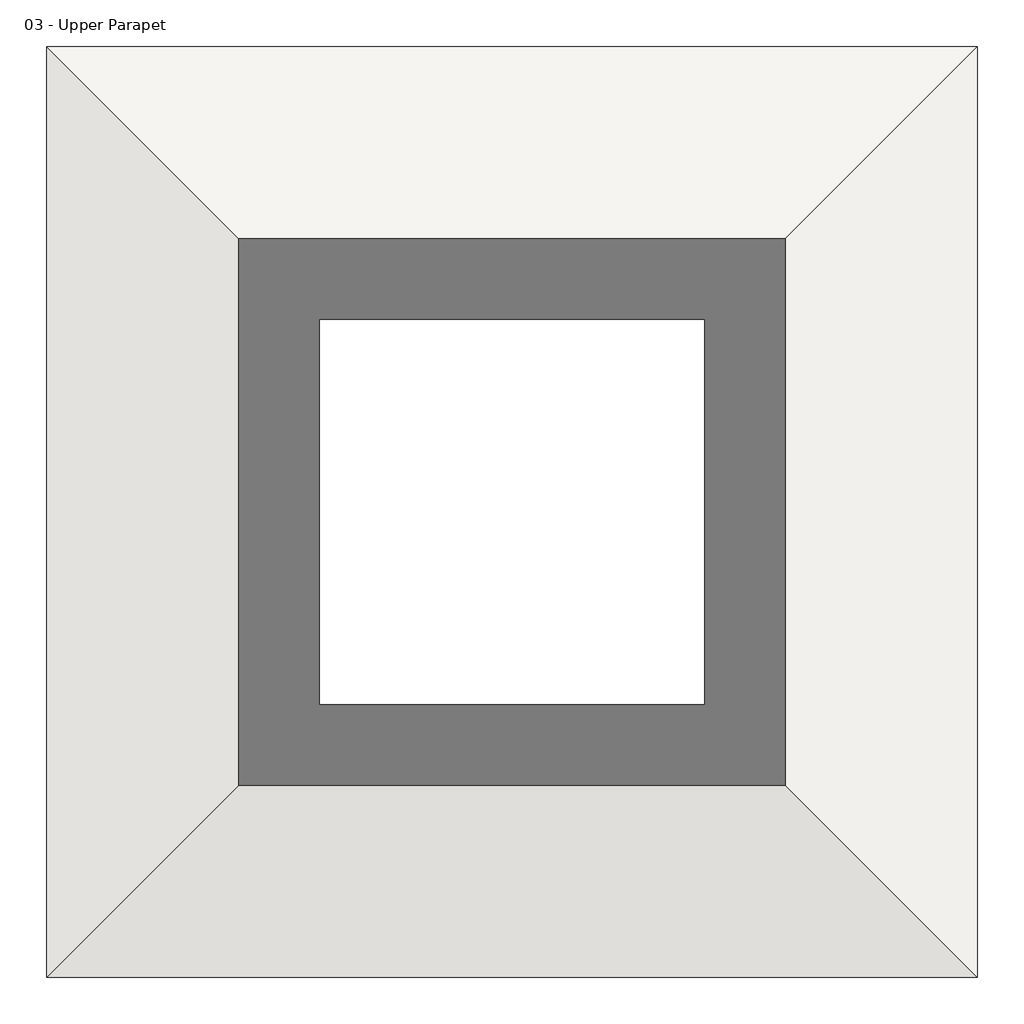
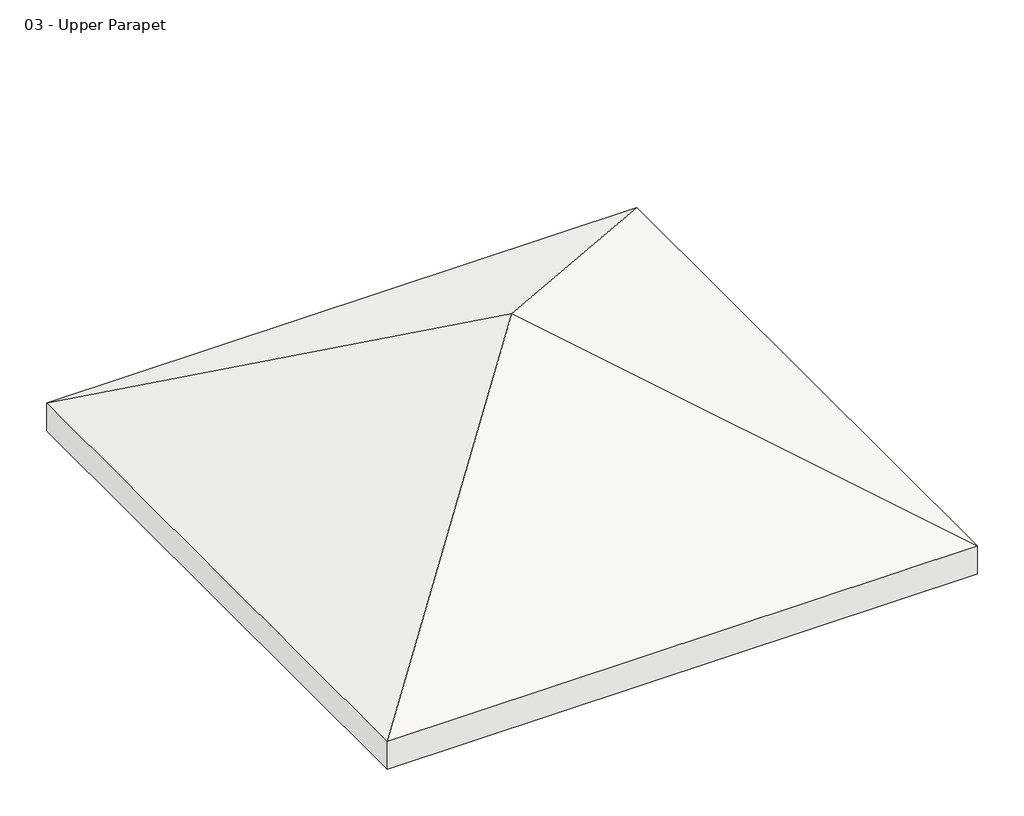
# One storey: 1 roof.
"""IFC4 building model written with IfcOpenShell, lengths in millimetres."""

import ifcopenshell
import ifcopenshell.guid

model = None  # the IFC model being written
_history = None  # IfcOwnerHistory: only IFC2X3 demands one
_inside = {}  # id of a spatial element -> (the spatial element, [elements in it])
_under = {}  # id of a project, library or spatial element -> (it, [spatial elements below it])
_declared = {}  # id of a project -> (the project, [libraries it declares])
_typed = {}  # id of a type object -> (the type object, [elements of that type])
_made_of = {}  # id of a material, layer set ... -> (it, [elements and type objects made of it])


def new_model(schema):
    """Start an empty IFC model of exactly this schema.

    Asked for "IFC4X3", IfcOpenShell would pick the latest addendum, in which some entities
    have other attributes; the version numbers below select the first issue.
    IFC2X3 requires an IfcOwnerHistory on every rooted entity: one is made here for all.
    """
    global model, _history
    if schema == "IFC4X3":
        model = ifcopenshell.file(schema_version=(4, 3, 0, 0))
    else:
        model = ifcopenshell.file(schema=schema)
    _inside.clear()
    _under.clear()
    _declared.clear()
    _typed.clear()
    _made_of.clear()
    _history = None
    if model.schema == "IFC2X3":
        org = make("IfcOrganization", Name="unknown")
        user = make(
            "IfcPersonAndOrganization",
            ThePerson=make("IfcPerson", FamilyName="unknown"),
            TheOrganization=org,
        )
        app = make(
            "IfcApplication",
            ApplicationDeveloper=org,
            Version="unknown",
            ApplicationFullName="unknown",
            ApplicationIdentifier="unknown",
        )
        _history = make(
            "IfcOwnerHistory",
            OwningUser=user,
            OwningApplication=app,
            ChangeAction="ADDED",
            CreationDate=0,
        )
    return model


def make(cls, **values):
    """One entity of the class cls with the attributes given. An attribute that is None is left unset."""
    return model.create_entity(
        cls, **{name: value for name, value in values.items() if value is not None}
    )


def rooted(cls, **values):
    """An entity with a GlobalId (a new one), such as an element, a storey or a relation."""
    return make(cls, GlobalId=ifcopenshell.guid.new(), OwnerHistory=_history, **values)


def si_unit(unit_type, name, prefix=None):
    """IfcSIUnit, for example si_unit("LENGTHUNIT", "METRE", prefix="MILLI")."""
    return make("IfcSIUnit", UnitType=unit_type, Prefix=prefix, Name=name)


def assignment(units):
    """IfcUnitAssignment: the units of a project."""
    return None if units is None else make("IfcUnitAssignment", Units=units)


def point(xyz):
    """IfcCartesianPoint."""
    return None if xyz is None else make("IfcCartesianPoint", Coordinates=xyz)


def direction(xyz):
    """IfcDirection."""
    return None if xyz is None else make("IfcDirection", DirectionRatios=xyz)


def frame(location, z_axis=None, x_axis=None):
    """IfcAxis2Placement3D, a coordinate frame: its origin and axes. An axis left out is left unset."""
    return make(
        "IfcAxis2Placement3D",
        Location=point(location),
        Axis=direction(z_axis),
        RefDirection=direction(x_axis),
    )


def origin():
    """The frame at (0, 0, 0) with its axes left unset."""
    return frame((0.0, 0.0, 0.0))


def place(relative_to, where):
    """IfcLocalPlacement: puts the frame where relative to a parent placement (None: the world)."""
    return make(
        "IfcLocalPlacement", PlacementRelTo=relative_to, RelativePlacement=where
    )


def context(
    kind, dimensions, precision=None, world=None, true_north=None, identifier=None
):
    """IfcGeometricRepresentationContext, for example the 3D "Model" context."""
    return make(
        "IfcGeometricRepresentationContext",
        ContextIdentifier=identifier,
        ContextType=kind,
        CoordinateSpaceDimension=dimensions,
        Precision=precision,
        WorldCoordinateSystem=world,
        TrueNorth=true_north,
    )


def project(units=None, contexts=None):
    """IfcProject with its units and contexts."""
    return rooted(
        "IfcProject",
        Name="project",
        RepresentationContexts=contexts,
        UnitsInContext=assignment(units),
    )


def spatial(cls, under=None, at=None, **own):
    """A site, building, storey or space (cls), placed at a placement, below another one or the project."""
    s = rooted(cls, ObjectPlacement=at, **own)
    if under is not None:
        _under.setdefault(under.id(), (under, []))[1].append(s)
    return s


def faces_of(points, faces, orient=None, outer=None):
    """IfcFace entities. A face is a list of loops; a loop is a list of indices into points, from 0.

    orient and outer hold one flag for each loop. By default every Orientation is true, the
    first loop of a face is its IfcFaceOuterBound and the others are IfcFaceBound.
    """
    made = []
    for i, loops in enumerate(faces):
        bounds = []
        for j, loop in enumerate(loops):
            is_outer = j == 0 if outer is None else outer[i][j]
            bounds.append(
                make(
                    "IfcFaceOuterBound" if is_outer else "IfcFaceBound",
                    Bound=make("IfcPolyLoop", Polygon=[points[k] for k in loop]),
                    Orientation=True if orient is None else orient[i][j],
                )
            )
        made.append(make("IfcFace", Bounds=bounds))
    return made


def faceted_brep(points, faces, orient=None, outer=None, voids=None):
    """IfcFacetedBrep: a solid bounded by flat faces; with voids (closed shells), ...WithVoids."""
    shared = [point(p) for p in points]
    hull = make("IfcClosedShell", CfsFaces=faces_of(shared, faces, orient, outer))
    if voids is None:
        return make("IfcFacetedBrep", Outer=hull)
    return make(
        "IfcFacetedBrepWithVoids",
        Outer=hull,
        Voids=[
            make(cls, CfsFaces=faces_of(shared, fs, o, b)) for cls, fs, o, b in voids
        ],
    )


def shape(context_of_items, identifier, shape_type, items):
    """IfcShapeRepresentation: the items that make up one representation, for example the "Body"."""
    return make(
        "IfcShapeRepresentation",
        ContextOfItems=context_of_items,
        RepresentationIdentifier=identifier,
        RepresentationType=shape_type,
        Items=items,
    )


def made_of(thing, what):
    """Note that an element or type object is made of a material, layer set ...; save() writes the relation."""
    if what is not None:
        _made_of.setdefault(what.id(), (what, []))[1].append(thing)
    return thing


def element(
    cls,
    number,
    at=None,
    inside=None,
    cuts=None,
    type_object=None,
    material=None,
    context=None,
    identifier="Body",
    shape_type=None,
    held_by="IfcProductDefinitionShape",
    body=None,
    shapes=None,
    **own,
):
    """One element of the class cls, such as IfcWall. Its Tag is "e" and its number.

    at: its placement. inside: the storey or other place that contains it. cuts: it is an
    opening in that element (IfcRelVoidsElement). A single representation is given by context,
    identifier, shape_type and body (its items); several are given by shapes. held_by: the class
    of the entity that holds the representations. save() writes the other relations.
    """
    e = rooted(cls, Tag="e%d" % number, ObjectPlacement=at, **own)
    if body is not None:
        shapes = [shape(context, identifier, shape_type, body)]
    if shapes is not None:
        e.Representation = make(held_by, Representations=shapes)
    if inside is not None:
        _inside.setdefault(inside.id(), (inside, []))[1].append(e)
    if cuts is not None:
        rooted(
            "IfcRelVoidsElement", RelatingBuildingElement=cuts, RelatedOpeningElement=e
        )
    if type_object is not None:
        _typed.setdefault(type_object.id(), (type_object, []))[1].append(e)
    return made_of(e, material)


def aggregate(whole, parts):
    """IfcRelAggregates: a whole, such as a stair, and the parts it consists of."""
    return rooted("IfcRelAggregates", RelatingObject=whole, RelatedObjects=parts)


def save(model, path):
    """Write the relations noted so far, then the file.

    IfcRelAggregates (storeys below a building ...), IfcRelContainedInSpatialStructure (elements
    in a storey), IfcRelDefinesByType, IfcRelAssociatesMaterial and IfcRelDeclares: one each for
    every whole, place, type object, material and project.
    """
    for whole, parts in _under.values():
        aggregate(whole, parts)
    for where, things in _inside.values():
        rooted(
            "IfcRelContainedInSpatialStructure",
            RelatedElements=things,
            RelatingStructure=where,
        )
    for kind, things in _typed.values():
        rooted("IfcRelDefinesByType", RelatedObjects=things, RelatingType=kind)
    for what, things in _made_of.values():
        rooted("IfcRelAssociatesMaterial", RelatedObjects=things, RelatingMaterial=what)
    for by, libraries in _declared.values():
        rooted("IfcRelDeclares", RelatingContext=by, RelatedDefinitions=libraries)
    model.write(path)


model = new_model("IFC4")

# Units and contexts
model_context = context("Model", 3, world=origin())
ifc_project = project(units=[si_unit("LENGTHUNIT", "METRE", prefix="MILLI")], contexts=[model_context])

# Site, building, storey
site = spatial("IfcSite", under=ifc_project)
building = spatial("IfcBuilding", under=site)
storey = spatial("IfcBuildingStorey", under=building, Name="03 - Upper Parapet", Elevation=8000.0)

# Roof
placement = place(None, origin())
element("IfcRoof", 1, ObjectType="Generic - 400mm", at=placement, inside=storey, context=model_context, shape_type="Brep", body=[
    faceted_brep([(19380.5272279, -15006.9313057, 7653.5898385), (14818.0272279, -10444.4313057, 10287.7504417), (19380.5272279, -5881.9313057, 7653.5898385), (10255.5272279, -5881.9313057, 7653.5898385), (10255.5272279, -15006.9313057, 7653.5898385), (19380.5272279, -15006.9313057, 8115.4700538), (19380.5272279, -5881.9313057, 8115.4700538), (14818.0272279, -10444.4313057, 10749.630657), (10255.5272279, -5881.9313057, 8115.4700538), (10255.5272279, -15006.9313057, 8115.4700538)], [[[0, 1, 2]], [[2, 1, 3]], [[3, 1, 4]], [[1, 0, 4]], [[5, 6, 7]], [[6, 8, 7]], [[8, 9, 7]], [[5, 7, 9]], [[2, 6, 5, 0]], [[3, 8, 6, 2]], [[4, 9, 8, 3]], [[0, 5, 9, 4]]]),
])

save(model, "model.ifc")
